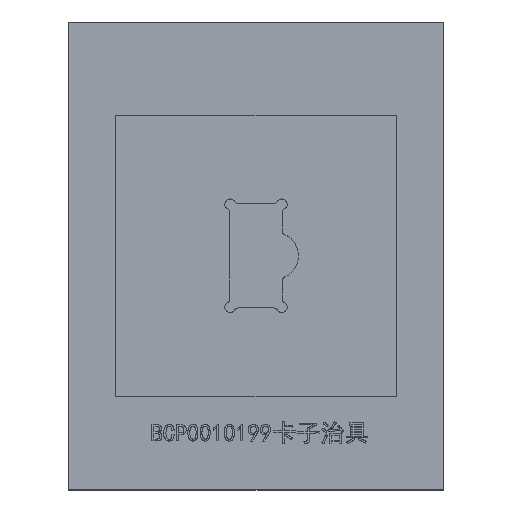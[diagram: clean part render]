
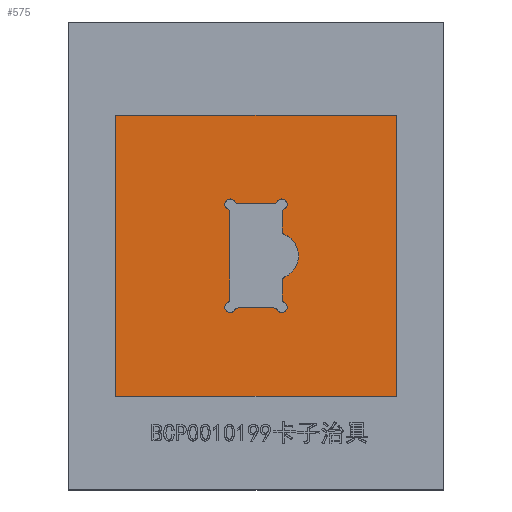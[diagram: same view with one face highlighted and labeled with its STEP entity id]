
A CAD part, top view. The second image highlights one B-rep face of the part: STEP entity #575.
In plain terms, the highlighted planar face has unit normal (0, 0, 1).
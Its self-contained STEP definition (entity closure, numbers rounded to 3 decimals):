
#105=CARTESIAN_POINT('Vertex',(2.783,-5.724,8.)) ;
#108=CARTESIAN_POINT('Axis2P3D Location',(3.358,-6.72,8.)) ;
#112=CARTESIAN_POINT('Vertex',(4.354,-7.295,8.)) ;
#143=CARTESIAN_POINT('Vertex',(3.208,-4.988,8.)) ;
#146=CARTESIAN_POINT('Axis2P3D Location',(2.358,-4.988,8.)) ;
#174=CARTESIAN_POINT('Vertex',(3.208,13.548,8.)) ;
#177=CARTESIAN_POINT('Line Origine',(3.208,4.28,8.)) ;
#200=CARTESIAN_POINT('Vertex',(12.626,15.43,8.)) ;
#214=CARTESIAN_POINT('Vertex',(13.362,15.855,8.)) ;
#217=CARTESIAN_POINT('Axis2P3D Location',(12.626,16.28,8.)) ;
#245=CARTESIAN_POINT('Vertex',(14.933,14.284,8.)) ;
#248=CARTESIAN_POINT('Axis2P3D Location',(14.358,15.28,8.)) ;
#271=CARTESIAN_POINT('Vertex',(14.508,9.55,8.)) ;
#274=CARTESIAN_POINT('Line Origine',(14.508,4.28,8.)) ;
#278=CARTESIAN_POINT('Vertex',(14.508,13.548,8.)) ;
#306=CARTESIAN_POINT('Vertex',(14.508,-4.988,8.)) ;
#309=CARTESIAN_POINT('Line Origine',(14.508,4.28,8.)) ;
#313=CARTESIAN_POINT('Vertex',(14.508,-0.99,8.)) ;
#353=CARTESIAN_POINT('Vertex',(13.362,-7.295,8.)) ;
#356=CARTESIAN_POINT('Axis2P3D Location',(14.358,-6.72,8.)) ;
#360=CARTESIAN_POINT('Vertex',(14.933,-5.724,8.)) ;
#391=CARTESIAN_POINT('Vertex',(12.626,-6.87,8.)) ;
#394=CARTESIAN_POINT('Axis2P3D Location',(12.626,-7.72,8.)) ;
#422=CARTESIAN_POINT('Vertex',(5.09,-6.87,8.)) ;
#425=CARTESIAN_POINT('Line Origine',(8.858,-6.87,8.)) ;
#447=CARTESIAN_POINT('Axis2P3D Location',(5.09,-7.72,8.)) ;
#459=CARTESIAN_POINT('Axis2P3D Location',(0.,0.,8.)) ;
#464=CARTESIAN_POINT('Line Origine',(38.858,4.28,8.)) ;
#468=CARTESIAN_POINT('Vertex',(38.858,-25.72,8.)) ;
#470=CARTESIAN_POINT('Vertex',(38.858,34.28,8.)) ;
#473=CARTESIAN_POINT('Line Origine',(8.858,34.28,8.)) ;
#477=CARTESIAN_POINT('Vertex',(-21.142,34.28,8.)) ;
#480=CARTESIAN_POINT('Line Origine',(-21.142,4.28,8.)) ;
#484=CARTESIAN_POINT('Vertex',(-21.142,-25.72,8.)) ;
#487=CARTESIAN_POINT('Line Origine',(8.858,-25.72,8.)) ;
#498=CARTESIAN_POINT('Axis2P3D Location',(2.358,13.548,8.)) ;
#502=CARTESIAN_POINT('Vertex',(2.783,14.284,8.)) ;
#505=CARTESIAN_POINT('Axis2P3D Location',(3.358,15.28,8.)) ;
#509=CARTESIAN_POINT('Vertex',(4.354,15.855,8.)) ;
#512=CARTESIAN_POINT('Axis2P3D Location',(5.09,16.28,8.)) ;
#516=CARTESIAN_POINT('Vertex',(5.09,15.43,8.)) ;
#519=CARTESIAN_POINT('Line Origine',(8.858,15.43,8.)) ;
#524=CARTESIAN_POINT('Axis2P3D Location',(15.358,13.548,8.)) ;
#529=CARTESIAN_POINT('Axis2P3D Location',(15.358,9.55,8.)) ;
#533=CARTESIAN_POINT('Vertex',(15.018,8.771,8.)) ;
#536=CARTESIAN_POINT('Axis2P3D Location',(13.058,4.28,8.)) ;
#540=CARTESIAN_POINT('Vertex',(15.018,-0.211,8.)) ;
#543=CARTESIAN_POINT('Axis2P3D Location',(15.358,-0.99,8.)) ;
#548=CARTESIAN_POINT('Axis2P3D Location',(15.358,-4.988,8.)) ;
#109=DIRECTION('Axis2P3D Direction',(0.,0.,1.)) ;
#147=DIRECTION('Axis2P3D Direction',(0.,0.,1.)) ;
#178=DIRECTION('Vector Direction',(0.,1.,0.)) ;
#218=DIRECTION('Axis2P3D Direction',(0.,0.,1.)) ;
#249=DIRECTION('Axis2P3D Direction',(0.,0.,1.)) ;
#275=DIRECTION('Vector Direction',(0.,-1.,0.)) ;
#310=DIRECTION('Vector Direction',(0.,-1.,0.)) ;
#357=DIRECTION('Axis2P3D Direction',(0.,0.,1.)) ;
#395=DIRECTION('Axis2P3D Direction',(0.,-0.,1.)) ;
#426=DIRECTION('Vector Direction',(-1.,0.,0.)) ;
#448=DIRECTION('Axis2P3D Direction',(0.,-0.,1.)) ;
#460=DIRECTION('Axis2P3D Direction',(0.,0.,1.)) ;
#461=DIRECTION('Axis2P3D XDirection',(1.,0.,0.)) ;
#465=DIRECTION('Vector Direction',(0.,-1.,0.)) ;
#474=DIRECTION('Vector Direction',(1.,0.,0.)) ;
#481=DIRECTION('Vector Direction',(0.,1.,0.)) ;
#488=DIRECTION('Vector Direction',(-1.,0.,0.)) ;
#499=DIRECTION('Axis2P3D Direction',(0.,0.,1.)) ;
#506=DIRECTION('Axis2P3D Direction',(0.,0.,1.)) ;
#513=DIRECTION('Axis2P3D Direction',(0.,0.,1.)) ;
#520=DIRECTION('Vector Direction',(1.,0.,0.)) ;
#525=DIRECTION('Axis2P3D Direction',(0.,0.,1.)) ;
#530=DIRECTION('Axis2P3D Direction',(0.,0.,1.)) ;
#537=DIRECTION('Axis2P3D Direction',(0.,0.,1.)) ;
#544=DIRECTION('Axis2P3D Direction',(0.,0.,1.)) ;
#549=DIRECTION('Axis2P3D Direction',(0.,0.,1.)) ;
#110=AXIS2_PLACEMENT_3D('Circle Axis2P3D',#108,#109,$) ;
#148=AXIS2_PLACEMENT_3D('Circle Axis2P3D',#146,#147,$) ;
#219=AXIS2_PLACEMENT_3D('Circle Axis2P3D',#217,#218,$) ;
#250=AXIS2_PLACEMENT_3D('Circle Axis2P3D',#248,#249,$) ;
#358=AXIS2_PLACEMENT_3D('Circle Axis2P3D',#356,#357,$) ;
#396=AXIS2_PLACEMENT_3D('Circle Axis2P3D',#394,#395,$) ;
#449=AXIS2_PLACEMENT_3D('Circle Axis2P3D',#447,#448,$) ;
#462=AXIS2_PLACEMENT_3D('Plane Axis2P3D',#459,#460,#461) ;
#500=AXIS2_PLACEMENT_3D('Circle Axis2P3D',#498,#499,$) ;
#507=AXIS2_PLACEMENT_3D('Circle Axis2P3D',#505,#506,$) ;
#514=AXIS2_PLACEMENT_3D('Circle Axis2P3D',#512,#513,$) ;
#526=AXIS2_PLACEMENT_3D('Circle Axis2P3D',#524,#525,$) ;
#531=AXIS2_PLACEMENT_3D('Circle Axis2P3D',#529,#530,$) ;
#538=AXIS2_PLACEMENT_3D('Circle Axis2P3D',#536,#537,$) ;
#545=AXIS2_PLACEMENT_3D('Circle Axis2P3D',#543,#544,$) ;
#550=AXIS2_PLACEMENT_3D('Circle Axis2P3D',#548,#549,$) ;
#493=ORIENTED_EDGE('',*,*,#472,.T.) ;
#494=ORIENTED_EDGE('',*,*,#479,.T.) ;
#495=ORIENTED_EDGE('',*,*,#486,.T.) ;
#496=ORIENTED_EDGE('',*,*,#491,.T.) ;
#554=ORIENTED_EDGE('',*,*,#451,.F.) ;
#555=ORIENTED_EDGE('',*,*,#114,.F.) ;
#556=ORIENTED_EDGE('',*,*,#150,.F.) ;
#557=ORIENTED_EDGE('',*,*,#181,.F.) ;
#558=ORIENTED_EDGE('',*,*,#504,.F.) ;
#559=ORIENTED_EDGE('',*,*,#511,.T.) ;
#560=ORIENTED_EDGE('',*,*,#518,.T.) ;
#561=ORIENTED_EDGE('',*,*,#523,.T.) ;
#562=ORIENTED_EDGE('',*,*,#221,.F.) ;
#563=ORIENTED_EDGE('',*,*,#252,.F.) ;
#564=ORIENTED_EDGE('',*,*,#528,.F.) ;
#565=ORIENTED_EDGE('',*,*,#280,.F.) ;
#566=ORIENTED_EDGE('',*,*,#535,.T.) ;
#567=ORIENTED_EDGE('',*,*,#542,.T.) ;
#568=ORIENTED_EDGE('',*,*,#547,.T.) ;
#569=ORIENTED_EDGE('',*,*,#315,.F.) ;
#570=ORIENTED_EDGE('',*,*,#552,.T.) ;
#571=ORIENTED_EDGE('',*,*,#362,.F.) ;
#572=ORIENTED_EDGE('',*,*,#398,.F.) ;
#573=ORIENTED_EDGE('',*,*,#429,.F.) ;
#574=FACE_BOUND('',#553,.T.) ;
#179=VECTOR('Line Direction',#178,1.) ;
#276=VECTOR('Line Direction',#275,1.) ;
#311=VECTOR('Line Direction',#310,1.) ;
#427=VECTOR('Line Direction',#426,1.) ;
#466=VECTOR('Line Direction',#465,1.) ;
#475=VECTOR('Line Direction',#474,1.) ;
#482=VECTOR('Line Direction',#481,1.) ;
#489=VECTOR('Line Direction',#488,1.) ;
#521=VECTOR('Line Direction',#520,1.) ;
#575=ADVANCED_FACE('\X2\96F64EF651E04F554F53\X0\',(#497,#574),#463,.T.) ;
#111=CIRCLE('generated circle',#110,1.15) ;
#149=CIRCLE('generated circle',#148,0.85) ;
#220=CIRCLE('generated circle',#219,0.85) ;
#251=CIRCLE('generated circle',#250,1.15) ;
#359=CIRCLE('generated circle',#358,1.15) ;
#397=CIRCLE('generated circle',#396,0.85) ;
#450=CIRCLE('generated circle',#449,0.85) ;
#501=CIRCLE('generated circle',#500,0.85) ;
#508=CIRCLE('generated circle',#507,1.15) ;
#515=CIRCLE('generated circle',#514,0.85) ;
#527=CIRCLE('generated circle',#526,0.85) ;
#532=CIRCLE('generated circle',#531,0.85) ;
#539=CIRCLE('generated circle',#538,4.9) ;
#546=CIRCLE('generated circle',#545,0.85) ;
#551=CIRCLE('generated circle',#550,0.85) ;
#114=EDGE_CURVE('',#106,#113,#111,.T.) ;
#150=EDGE_CURVE('',#144,#106,#149,.F.) ;
#181=EDGE_CURVE('',#175,#144,#180,.F.) ;
#221=EDGE_CURVE('',#215,#201,#220,.F.) ;
#252=EDGE_CURVE('',#246,#215,#251,.T.) ;
#280=EDGE_CURVE('',#272,#279,#277,.F.) ;
#315=EDGE_CURVE('',#307,#314,#312,.F.) ;
#362=EDGE_CURVE('',#354,#361,#359,.T.) ;
#398=EDGE_CURVE('',#392,#354,#397,.F.) ;
#429=EDGE_CURVE('',#423,#392,#428,.F.) ;
#451=EDGE_CURVE('',#113,#423,#450,.F.) ;
#472=EDGE_CURVE('',#469,#471,#467,.F.) ;
#479=EDGE_CURVE('',#471,#478,#476,.F.) ;
#486=EDGE_CURVE('',#478,#485,#483,.F.) ;
#491=EDGE_CURVE('',#485,#469,#490,.F.) ;
#504=EDGE_CURVE('',#503,#175,#501,.F.) ;
#511=EDGE_CURVE('',#503,#510,#508,.F.) ;
#518=EDGE_CURVE('',#510,#517,#515,.T.) ;
#523=EDGE_CURVE('',#517,#201,#522,.T.) ;
#528=EDGE_CURVE('',#279,#246,#527,.F.) ;
#535=EDGE_CURVE('',#272,#534,#532,.T.) ;
#542=EDGE_CURVE('',#534,#541,#539,.F.) ;
#547=EDGE_CURVE('',#541,#314,#546,.T.) ;
#552=EDGE_CURVE('',#307,#361,#551,.T.) ;
#492=EDGE_LOOP('',(#493,#494,#495,#496)) ;
#553=EDGE_LOOP('',(#554,#555,#556,#557,#558,#559,#560,#561,#562,#563,#564,#565,#566,#567,#568,#569,#570,#571,#572,#573)) ;
#497=FACE_OUTER_BOUND('',#492,.T.) ;
#180=LINE('Line',#177,#179) ;
#277=LINE('Line',#274,#276) ;
#312=LINE('Line',#309,#311) ;
#428=LINE('Line',#425,#427) ;
#467=LINE('Line',#464,#466) ;
#476=LINE('Line',#473,#475) ;
#483=LINE('Line',#480,#482) ;
#490=LINE('Line',#487,#489) ;
#522=LINE('Line',#519,#521) ;
#463=PLANE('Plane',#462) ;
#106=VERTEX_POINT('',#105) ;
#113=VERTEX_POINT('',#112) ;
#144=VERTEX_POINT('',#143) ;
#175=VERTEX_POINT('',#174) ;
#201=VERTEX_POINT('',#200) ;
#215=VERTEX_POINT('',#214) ;
#246=VERTEX_POINT('',#245) ;
#272=VERTEX_POINT('',#271) ;
#279=VERTEX_POINT('',#278) ;
#307=VERTEX_POINT('',#306) ;
#314=VERTEX_POINT('',#313) ;
#354=VERTEX_POINT('',#353) ;
#361=VERTEX_POINT('',#360) ;
#392=VERTEX_POINT('',#391) ;
#423=VERTEX_POINT('',#422) ;
#469=VERTEX_POINT('',#468) ;
#471=VERTEX_POINT('',#470) ;
#478=VERTEX_POINT('',#477) ;
#485=VERTEX_POINT('',#484) ;
#503=VERTEX_POINT('',#502) ;
#510=VERTEX_POINT('',#509) ;
#517=VERTEX_POINT('',#516) ;
#534=VERTEX_POINT('',#533) ;
#541=VERTEX_POINT('',#540) ;
